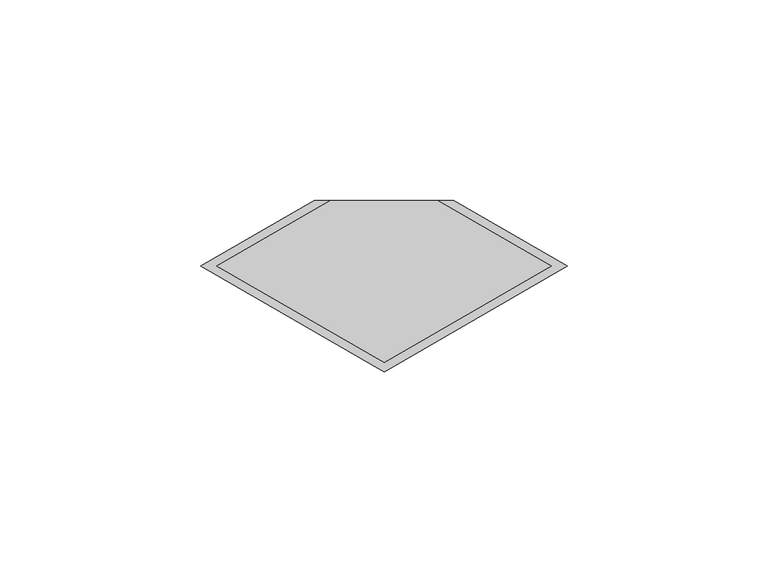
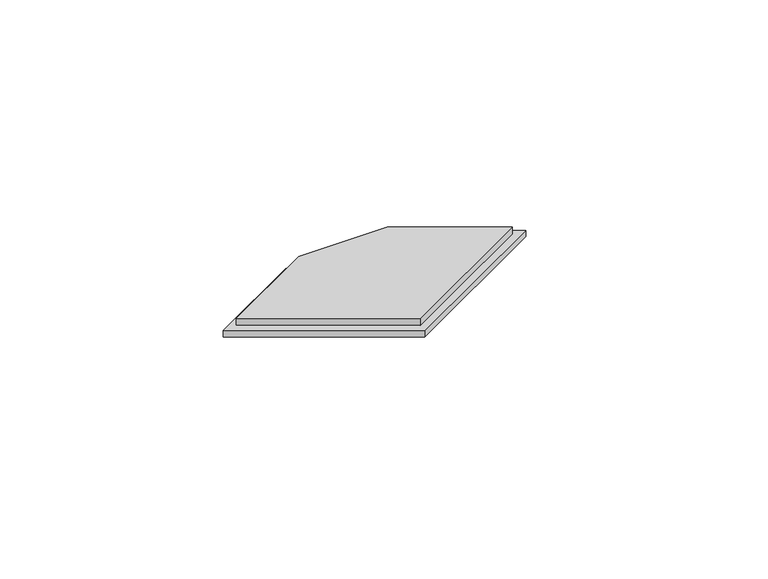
"""IFC4 building model written with IfcOpenShell, lengths in millimetres: proxy geometry, PBSHOP - CUBICA ARGENTO 4,8X8,3 : CUBICA ARGENTO - POSIÇÃO 03."""

from ifc_helpers import new_model, si_unit, frame, origin, origin_with_axes, place, context, project, spatial, polyline, outline, extrude, source, transform, mapped, element, save


def generic_models_b652511d(model_context):
    return source(origin(), model_context, "Body", "SweptSolid", [
        extrude(outline(polyline([(45.5692194, 0.0), (0.0, -26.3094011), (-45.5692194, 0.0), (-17.3205081, 16.3094011), (17.3205081, 16.3094011), (45.5692194, 0.0)])), origin_with_axes(), (0.0, 0.0, 1.0), 2.0),
        extrude(outline(polyline([(41.5692194, 0.0), (0.0, -24.0), (-41.5692194, 0.0), (-13.3205081, 16.3094011), (13.3205081, 16.3094011), (41.5692194, 0.0)])), frame((0.0, 0.0, 2.0), z_axis=(0.0, 0.0, 1.0), x_axis=(1.0, 0.0, 0.0)), (0.0, 0.0, 1.0), 2.5),
    ])


if __name__ == "__main__":
    model = new_model("IFC4")
    model_context = context("Model", 3, world=origin())
    ifc_project = project(units=[si_unit("LENGTHUNIT", "METRE", prefix="MILLI")], contexts=[model_context])
    site = spatial("IfcSite", under=ifc_project)
    building = spatial("IfcBuilding", under=site)
    placement = place(None, origin())
    generic_models_shape = generic_models_b652511d(model_context)
    element("IfcBuildingElementProxy", 1, Name="PBSHOP - CUBICA ARGENTO 4,8X8,3 : CUBICA ARGENTO - POSIÇÃO 03", ObjectType="PBSHOP - CUBICA ARGENTO 4,8X8,3 : CUBICA ARGENTO - POSIÇÃO 03", at=placement, inside=building, context=model_context, shape_type="MappedRepresentation", body=[
        mapped(generic_models_shape, transform((0.0, 0.0, 0.0), x_axis=(1.0, 0.0, 0.0), y_axis=(0.0, 1.0, 0.0), z_axis=(0.0, 0.0, 1.0))),
    ])
    save(model, "model.ifc")
